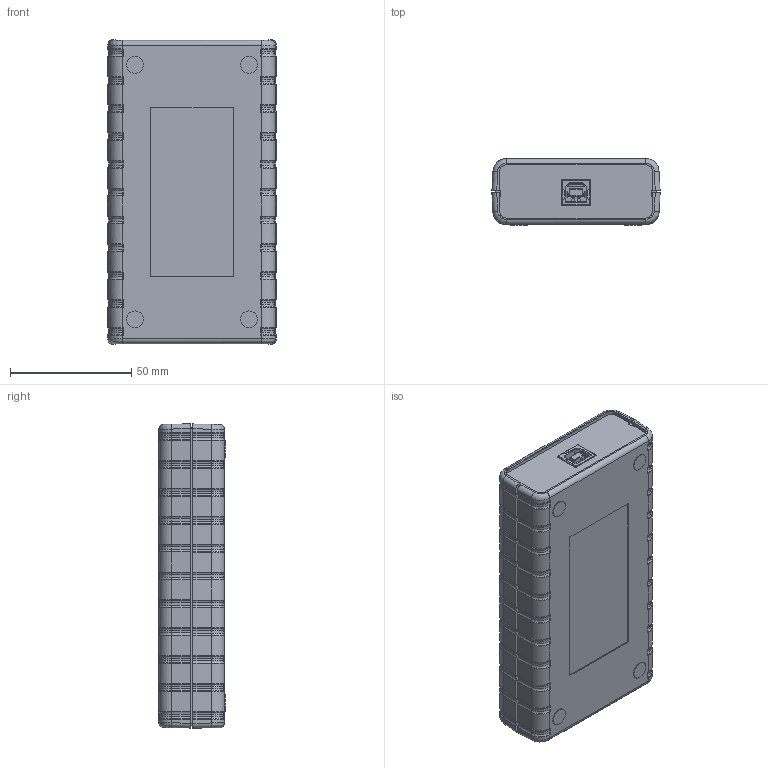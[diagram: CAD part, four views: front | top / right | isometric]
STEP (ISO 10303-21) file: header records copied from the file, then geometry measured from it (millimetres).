
FILE_DESCRIPTION (( 'STEP AP214' ), '1' );
FILE_NAME ('Flasher_Portable_Assembly_WEB.STEP', '2026-02-19T08:22:14', ( '' ), ( '' ), 'SwSTEP 2.0', 'SolidWorks 2020', '' );
FILE_SCHEMA (( 'AUTOMOTIVE_DESIGN' ));
Length unit declared in the file: millimetre
Products named in the file (1): Flasher_Portable_Assembly_WEB
Bounding box: 69.36 x 27.3 x 125.51 mm (x, y, z)
Surface area: 70332.4 mm2 (no closed solid volume)
Topology: 0 solids, 191 shells, 3431 faces, 9024 edges, 5813 vertices
Faces by surface type: plane 1877, cylinder 770, bspline 722, torus 52, cone 10
Entity records: 181297 total; most frequent: CARTESIAN_POINT 66702, ORIENTED_EDGE 15882, DIRECTION 13466, EDGE_CURVE 9024, LINE 5872, VECTOR 5872, VERTEX_POINT 5813, AXIS2_PLACEMENT_3D 3797
